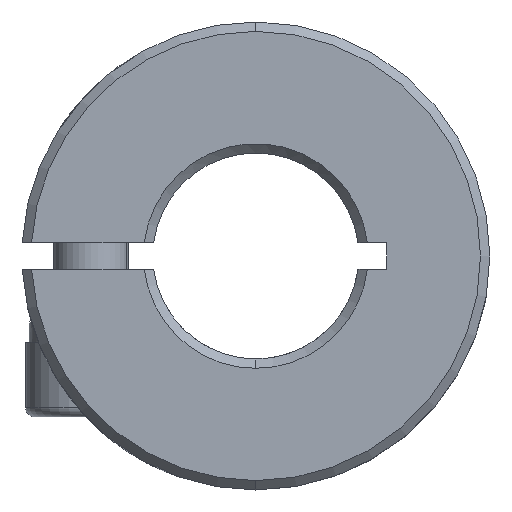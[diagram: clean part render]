
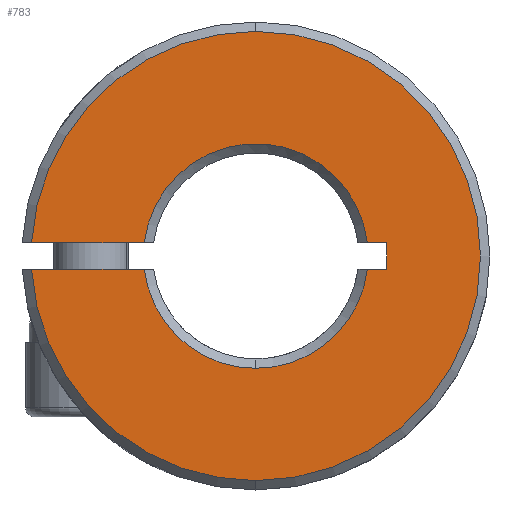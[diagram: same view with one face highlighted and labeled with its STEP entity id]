
A CAD part, front view. The second image highlights one B-rep face of the part: STEP entity #783.
In plain terms, the highlighted planar face has unit normal (0, -1, 0).
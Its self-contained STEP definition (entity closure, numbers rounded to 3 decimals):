
#128 = CARTESIAN_POINT ( 'NONE',  ( 0., 0.25, 0. ) ) ;
#216 = LINE ( 'NONE', #4607, #5916 ) ;
#267 = CIRCLE ( 'NONE', #3225, 6. ) ;
#271 = ORIENTED_EDGE ( 'NONE', *, *, #1766, .T. ) ;
#402 = CARTESIAN_POINT ( 'NONE',  ( 0., 0.25, 0. ) ) ;
#456 = ORIENTED_EDGE ( 'NONE', *, *, #4932, .F. ) ;
#500 = DIRECTION ( 'NONE',  ( 0., 0., 1. ) ) ;
#631 = CIRCLE ( 'NONE', #1335, 12. ) ;
#783 = ADVANCED_FACE ( 'NONE', ( #1799 ), #910, .F. ) ;
#799 = LINE ( 'NONE', #2691, #871 ) ;
#823 = CARTESIAN_POINT ( 'NONE',  ( 0., 0.25, 0. ) ) ;
#863 = AXIS2_PLACEMENT_3D ( 'NONE', #5183, #3795, #4725 ) ;
#871 = VECTOR ( 'NONE', #3644, 1000. ) ;
#896 = DIRECTION ( 'NONE',  ( 0., 0., 1. ) ) ;
#910 = PLANE ( 'NONE',  #3227 ) ;
#915 = ORIENTED_EDGE ( 'NONE', *, *, #5243, .T. ) ;
#1004 = ORIENTED_EDGE ( 'NONE', *, *, #3634, .F. ) ;
#1173 = DIRECTION ( 'NONE',  ( 0., 0., 1. ) ) ;
#1214 = VERTEX_POINT ( 'NONE', #2091 ) ;
#1284 = CARTESIAN_POINT ( 'NONE',  ( 7., 0.25, -0.7 ) ) ;
#1335 = AXIS2_PLACEMENT_3D ( 'NONE', #402, #4641, #896 ) ;
#1341 = CARTESIAN_POINT ( 'NONE',  ( -5.959, 0.25, 0.7 ) ) ;
#1397 = CARTESIAN_POINT ( 'NONE',  ( -500., 0.25, -13.609 ) ) ;
#1432 = ORIENTED_EDGE ( 'NONE', *, *, #2610, .F. ) ;
#1473 = VERTEX_POINT ( 'NONE', #4231 ) ;
#1503 = ORIENTED_EDGE ( 'NONE', *, *, #2917, .T. ) ;
#1653 = EDGE_CURVE ( 'NONE', #1860, #3879, #1900, .T. ) ;
#1708 = CARTESIAN_POINT ( 'NONE',  ( 0., 0.25, -6. ) ) ;
#1714 = DIRECTION ( 'NONE',  ( 0., 0., 1. ) ) ;
#1760 = DIRECTION ( 'NONE',  ( 0., -1., 0. ) ) ;
#1766 = EDGE_CURVE ( 'NONE', #3680, #6021, #4858, .T. ) ;
#1799 = FACE_OUTER_BOUND ( 'NONE', #3627, .T. ) ;
#1860 = VERTEX_POINT ( 'NONE', #2286 ) ;
#1864 = CARTESIAN_POINT ( 'NONE',  ( -12.75, 0.25, 0.7 ) ) ;
#1870 = DIRECTION ( 'NONE',  ( 0., -1., 0. ) ) ;
#1900 = CIRCLE ( 'NONE', #6027, 12. ) ;
#2091 = CARTESIAN_POINT ( 'NONE',  ( 7., 0.25, 0.7 ) ) ;
#2092 = CARTESIAN_POINT ( 'NONE',  ( -12.75, 0.25, -0.7 ) ) ;
#2151 = VECTOR ( 'NONE', #5691, 1000. ) ;
#2176 = DIRECTION ( 'NONE',  ( 0., 1., 0. ) ) ;
#2276 = CARTESIAN_POINT ( 'NONE',  ( 0., 0.25, -12. ) ) ;
#2286 = CARTESIAN_POINT ( 'NONE',  ( 0., 0.25, 12. ) ) ;
#2540 = DIRECTION ( 'NONE',  ( 0., 1., 0. ) ) ;
#2610 = EDGE_CURVE ( 'NONE', #1473, #2636, #5595, .T. ) ;
#2636 = VERTEX_POINT ( 'NONE', #5396 ) ;
#2651 = LINE ( 'NONE', #5560, #3167 ) ;
#2691 = CARTESIAN_POINT ( 'NONE',  ( -12.75, 0.25, -0.7 ) ) ;
#2728 = CARTESIAN_POINT ( 'NONE',  ( -11.98, 0.25, 0.7 ) ) ;
#2756 = LINE ( 'NONE', #1864, #2151 ) ;
#2814 = EDGE_CURVE ( 'NONE', #5973, #1214, #2651, .T. ) ;
#2848 = VERTEX_POINT ( 'NONE', #1708 ) ;
#2917 = EDGE_CURVE ( 'NONE', #1473, #3897, #631, .T. ) ;
#2954 = EDGE_CURVE ( 'NONE', #3897, #1860, #6152, .T. ) ;
#3167 = VECTOR ( 'NONE', #5075, 1000. ) ;
#3225 = AXIS2_PLACEMENT_3D ( 'NONE', #128, #2540, #1173 ) ;
#3227 = AXIS2_PLACEMENT_3D ( 'NONE', #1397, #6140, #500 ) ;
#3627 = EDGE_LOOP ( 'NONE', ( #456, #4703, #915, #1432, #1503, #5945, #5572, #1004, #271, #4254, #4476 ) ) ;
#3634 = EDGE_CURVE ( 'NONE', #3680, #3879, #216, .T. ) ;
#3644 = DIRECTION ( 'NONE',  ( 1., 0., 0. ) ) ;
#3680 = VERTEX_POINT ( 'NONE', #1341 ) ;
#3722 = EDGE_CURVE ( 'NONE', #4741, #2848, #5621, .T. ) ;
#3795 = DIRECTION ( 'NONE',  ( 0., 1., 0. ) ) ;
#3868 = DIRECTION ( 'NONE',  ( 0., 0., 1. ) ) ;
#3879 = VERTEX_POINT ( 'NONE', #2728 ) ;
#3897 = VERTEX_POINT ( 'NONE', #2276 ) ;
#4084 = CARTESIAN_POINT ( 'NONE',  ( 0., 0.25, 0. ) ) ;
#4141 = EDGE_CURVE ( 'NONE', #1214, #6021, #2756, .T. ) ;
#4150 = CARTESIAN_POINT ( 'NONE',  ( 5.959, 0.25, 0.7 ) ) ;
#4168 = DIRECTION ( 'NONE',  ( -1., 0., 0. ) ) ;
#4218 = AXIS2_PLACEMENT_3D ( 'NONE', #823, #2176, #6041 ) ;
#4231 = CARTESIAN_POINT ( 'NONE',  ( -11.98, 0.25, -0.7 ) ) ;
#4254 = ORIENTED_EDGE ( 'NONE', *, *, #4141, .F. ) ;
#4464 = DIRECTION ( 'NONE',  ( 1., 0., 0. ) ) ;
#4476 = ORIENTED_EDGE ( 'NONE', *, *, #2814, .F. ) ;
#4607 = CARTESIAN_POINT ( 'NONE',  ( -12.75, 0.25, 0.7 ) ) ;
#4641 = DIRECTION ( 'NONE',  ( 0., -1., 0. ) ) ;
#4694 = CARTESIAN_POINT ( 'NONE',  ( 0., 0.25, 0. ) ) ;
#4703 = ORIENTED_EDGE ( 'NONE', *, *, #3722, .T. ) ;
#4725 = DIRECTION ( 'NONE',  ( 0., 0., 1. ) ) ;
#4741 = VERTEX_POINT ( 'NONE', #5765 ) ;
#4822 = AXIS2_PLACEMENT_3D ( 'NONE', #4694, #1870, #3868 ) ;
#4858 = CIRCLE ( 'NONE', #4218, 6. ) ;
#4932 = EDGE_CURVE ( 'NONE', #4741, #5973, #799, .T. ) ;
#5075 = DIRECTION ( 'NONE',  ( 0., 0., 1. ) ) ;
#5183 = CARTESIAN_POINT ( 'NONE',  ( 0., 0.25, 0. ) ) ;
#5243 = EDGE_CURVE ( 'NONE', #2848, #2636, #267, .T. ) ;
#5288 = VECTOR ( 'NONE', #4464, 1000. ) ;
#5396 = CARTESIAN_POINT ( 'NONE',  ( -5.959, 0.25, -0.7 ) ) ;
#5560 = CARTESIAN_POINT ( 'NONE',  ( 7., 0.25, 0.7 ) ) ;
#5572 = ORIENTED_EDGE ( 'NONE', *, *, #1653, .T. ) ;
#5595 = LINE ( 'NONE', #2092, #5288 ) ;
#5621 = CIRCLE ( 'NONE', #863, 6. ) ;
#5691 = DIRECTION ( 'NONE',  ( -1., 0., 0. ) ) ;
#5765 = CARTESIAN_POINT ( 'NONE',  ( 5.959, 0.25, -0.7 ) ) ;
#5916 = VECTOR ( 'NONE', #4168, 1000. ) ;
#5945 = ORIENTED_EDGE ( 'NONE', *, *, #2954, .T. ) ;
#5973 = VERTEX_POINT ( 'NONE', #1284 ) ;
#6021 = VERTEX_POINT ( 'NONE', #4150 ) ;
#6027 = AXIS2_PLACEMENT_3D ( 'NONE', #4084, #1760, #1714 ) ;
#6041 = DIRECTION ( 'NONE',  ( 0., 0., 1. ) ) ;
#6140 = DIRECTION ( 'NONE',  ( 0., 1., 0. ) ) ;
#6152 = CIRCLE ( 'NONE', #4822, 12. ) ;
